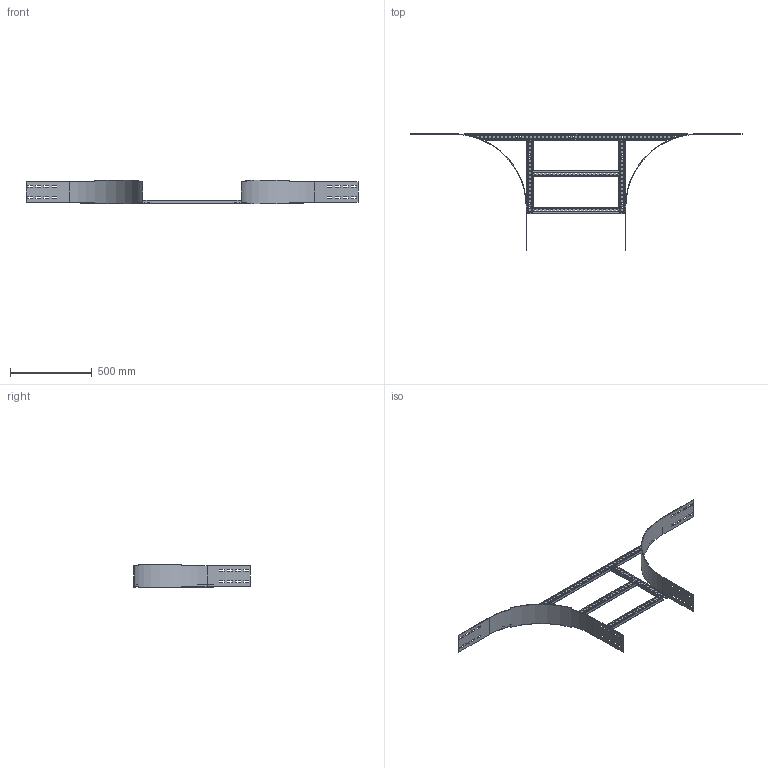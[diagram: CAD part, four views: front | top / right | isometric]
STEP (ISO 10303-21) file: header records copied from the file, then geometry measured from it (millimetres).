
FILE_DESCRIPTION(('Creo Elements/Direct Modeling STEP Export'),'2;1');
FILE_NAME('WPBP15-60-45.stp','2016-06-03T11:45:30',(''),(''),'PTC Creo Elements/Direct Modeling STEP processor for AP214 (Solid Model)','PTC Creo Elements/Direct Modeling 19.0C 15-Aug-2015 (C) Parametric Technology GmbH','');
FILE_SCHEMA(('AUTOMOTIVE_DESIGN { 1 0 10303 214 1 1 1 1 }'));
Length unit declared in the file: millimetre
Products named in the file (5): WPAASP1; WPAAIG_150-450.1; WPAASP2; WPKS60; WPBP15-60-45
Assembly tree (7 placements, depth 2):
  WPBP15-60-45
    WPAASP2  x2
    WPKS60  x2
    WPAAIG_150-450.1  x2
    WPAASP1
Bounding box: 2035 x 715 x 145 mm (x, y, z)
Volume: 1413644 mm3; surface area: 1302921.3 mm2
Topology: 7 solids, 7 shells, 881 faces, 2601 edges, 1734 vertices
Faces by surface type: plane 531, cylinder 350
Entity records: 19345 total; most frequent: ORIENTED_EDGE 3330, CARTESIAN_POINT 3323, DIRECTION 3251, EDGE_CURVE 1665, VECTOR 1175, LINE 1175, VERTEX_POINT 1110, AXIS2_PLACEMENT_3D 1038
